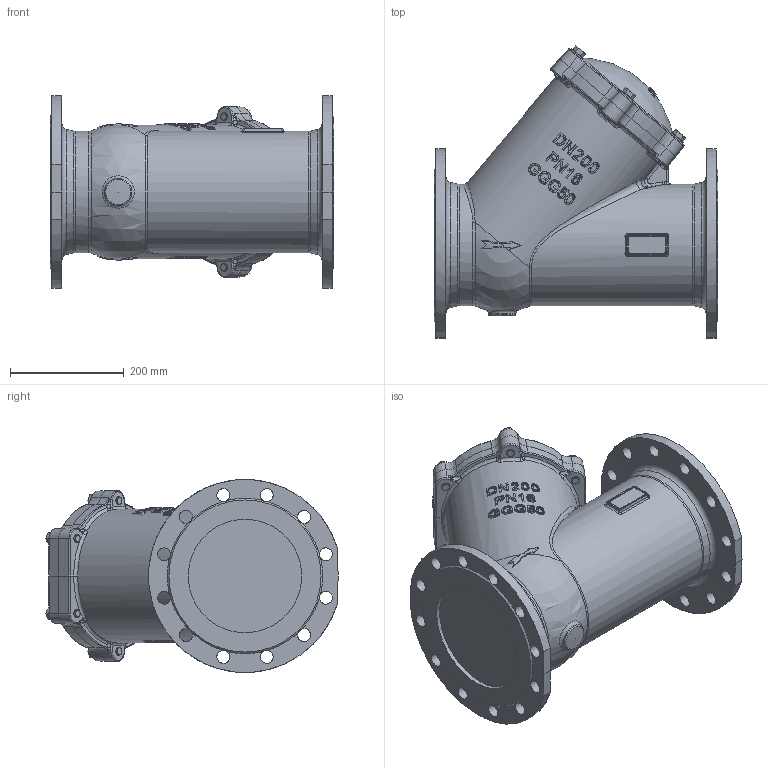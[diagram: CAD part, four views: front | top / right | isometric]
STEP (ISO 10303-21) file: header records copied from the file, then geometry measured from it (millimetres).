
FILE_DESCRIPTION (( 'STEP AP214' ), '1' );
FILE_NAME ('DN200.STEP', '2026-09-15T12:52:25', ( '' ), ( '' ), 'SwSTEP 2.0', 'SolidWorks 2024', '' );
FILE_SCHEMA (( 'AUTOMOTIVE_DESIGN' ));
Length unit declared in the file: millimetre
Products named in the file (1): DN200
Bounding box: 500 x 514.83 x 340 mm (x, y, z)
Volume: 31121420.6 mm3; surface area: 981121.4 mm2
Topology: 1 solids, 14 shells, 1127 faces, 2973 edges, 1885 vertices
Faces by surface type: bspline 613, plane 198, cylinder 153, cone 82, torus 57, sphere 24
Full cylindrical faces by diameter (mm): 14 x12, 15 x6, 23 x24, 28 x6, 48 x1, 200 x2, 214 x2, 229.497 x1
Entity records: 67027 total; most frequent: CARTESIAN_POINT 35502, ORIENTED_EDGE 5556, EDGE_CURVE 2778, DIRECTION 2476, B_SPLINE_CURVE_WITH_KNOTS 1828, VERTEX_POINT 1804, EDGE_LOOP 1326, FACE_OUTER_BOUND 1193
